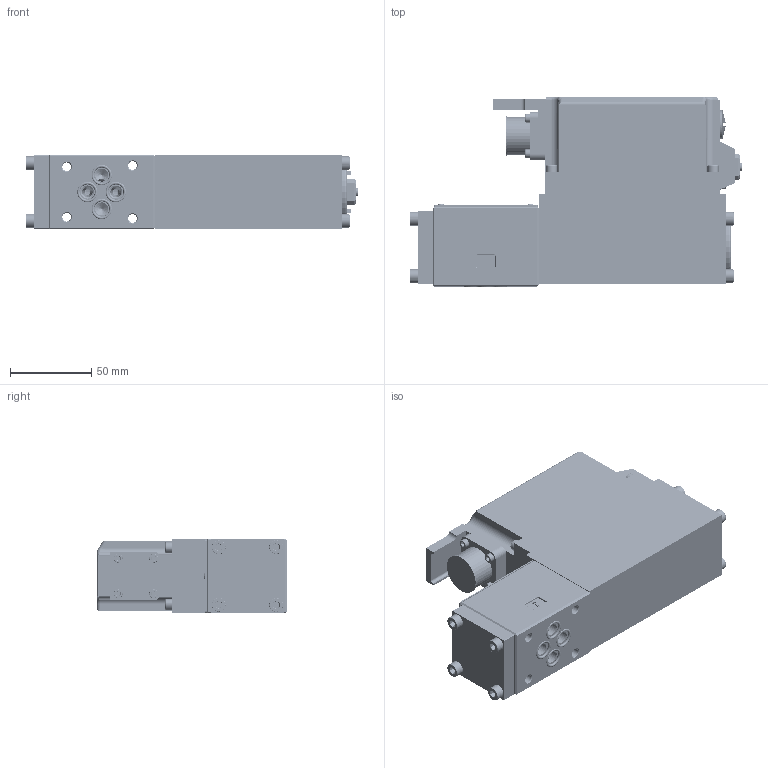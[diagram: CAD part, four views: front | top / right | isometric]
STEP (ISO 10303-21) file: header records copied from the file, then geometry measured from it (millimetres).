
FILE_DESCRIPTION(/* description */ (''),/* implementation_level */ '2;1');
FILE_NAME(/* name */ '4WRPEH6三维模型.prt.stp',/* time_stamp */ '2023-01-30T07:54:41+08:00',/* author */ (''),/* organization */ (''),/* preprocessor_version */ 'ST-DEVELOPER v16.7',/* originating_system */ 'SIEMENS PLM Software NX 12.0',/* authorisation */ '');
FILE_SCHEMA (('AUTOMOTIVE_DESIGN { 1 0 10303 214 3 1 1 1 }'));
Products named in the file (1): 4WRPEH6三维模型
Bounding box: 203.95 x 116.88 x 46 mm (x, y, z)
Volume: 409236.4 mm3; surface area: 165929.8 mm2
Topology: 52 solids, 53 shells, 1509 faces, 3907 edges, 2555 vertices
Faces by surface type: cylinder 641, plane 618, bspline 108, cone 74, torus 45, extrusion 16, sphere 7
Full cylindrical faces by diameter (mm): 1.6 x7, 1.8 x4, 2.2 x2, 2.5 x2, 3 x2, 3.3 x40, 3.5 x4, 4 x69, 4.2 x48, 4.6 x1, 5 x150, 5.3 x4, 5.4 x10, 5.5 x4, 6 x1, 6.5 x1, 7 x6, 8 x5, 8.5 x8, 9.5 x4, 10 x4, 12 x6, 12.2 x4, 13.5 x1, 13.6 x2, 14 x2, 17 x3, 17.6 x1, 18 x1, 20 x7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
Entity records: 208947 total; most frequent: CARTESIAN_POINT 181528, ORIENTED_EDGE 5236, DIRECTION 4866, EDGE_CURVE 2618, VERTEX_POINT 1820, AXIS2_PLACEMENT_3D 1762, EDGE_LOOP 1599, VECTOR 1342
